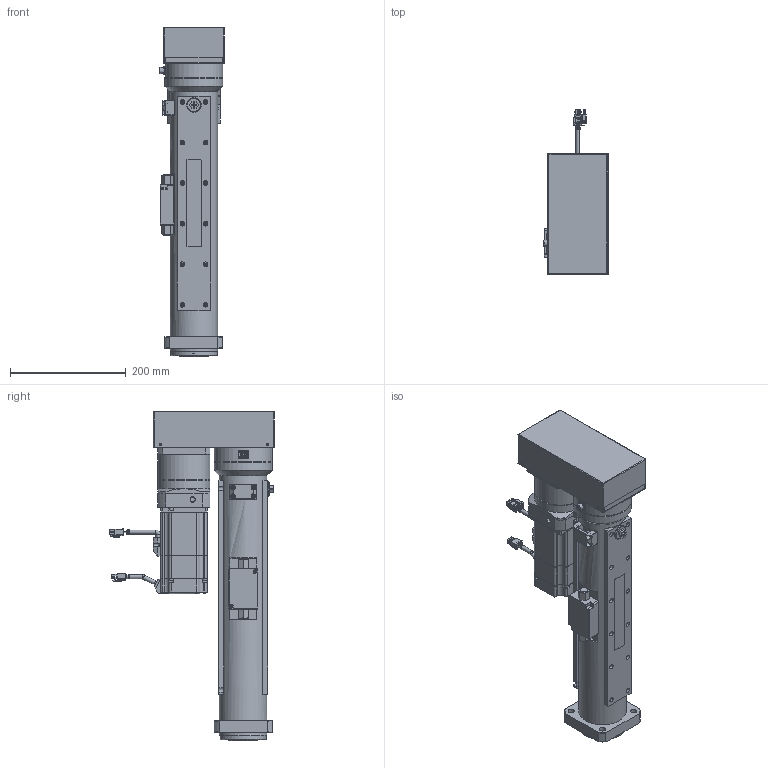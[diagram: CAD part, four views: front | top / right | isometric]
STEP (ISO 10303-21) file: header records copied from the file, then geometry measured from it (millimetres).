
FILE_DESCRIPTION( ('This file contains a STEP AP42 implementation' ,'as created by ZW3D STEP Interface translator.') ,'2;1' );
FILE_NAME( 'OACIS-DW-P005-300-300-A6_V20.51.stp' ,'26 4 9.133750', (''), ('ZWCAD Software Co.'), 'Version 1.0', 'ZW3D to STEP translator', '' );
FILE_SCHEMA(('AUTOMOTIVE_DESIGN { 1 0 10303 214 1 1 1 1 }'));
Length unit declared in the file: millimetre
Products named in the file (1): 0
Bounding box: 110.7 x 284.8 x 568.5 mm (x, y, z)
Volume: 4441273.2 mm3; surface area: 903383.3 mm2
Topology: 25 solids, 34 shells, 1987 faces, 5058 edges, 3285 vertices
Faces by surface type: plane 1001, cylinder 605, cone 277, torus 57, bspline 30, sphere 17
Full cylindrical faces by diameter (mm): 1 x17, 1.567 x4, 1.754 x2, 1.755 x2, 1.82 x4, 2 x5, 2.2 x4, 2.5 x8, 2.6 x12, 3.2 x4, 3.3 x82, 4.134 x1, 4.2 x16, 4.3 x22, 4.5 x12, 4.917 x9, 5 x30, 5.3 x4, 5.5 x6, 6 x8, 6.4 x6, 6.5 x14, 6.647 x1, 7 x14, 7.2 x1, 8 x26, 8.5 x2, 9 x4, 10 x5, 10.5 x1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
Entity records: 64697 total; most frequent: CARTESIAN_POINT 13361, DIRECTION 10444, ORIENTED_EDGE 9966, EDGE_CURVE 4983, AXIS2_PLACEMENT_3D 3773, VERTEX_POINT 3285, VECTOR 2898, LINE 2898
